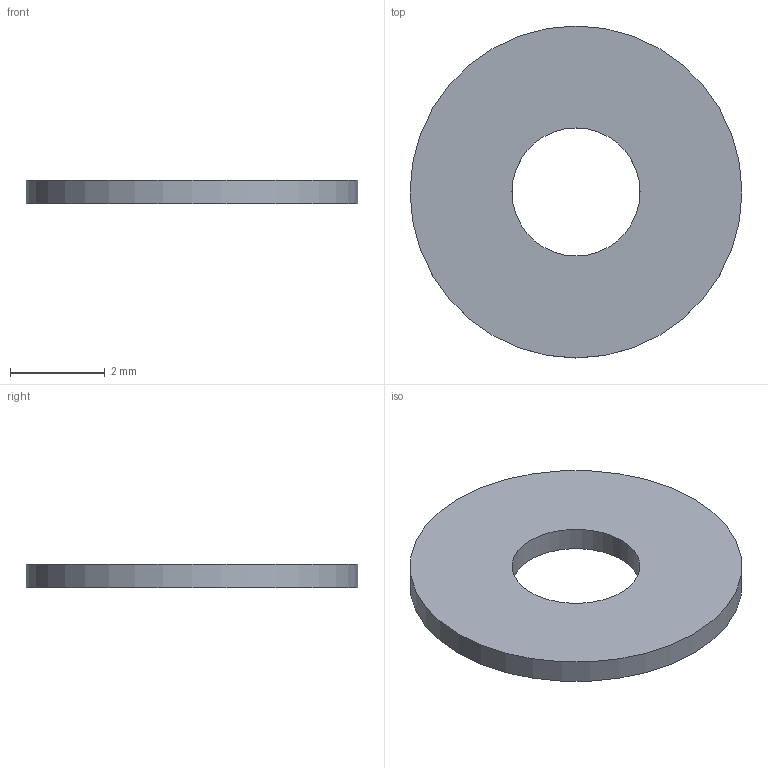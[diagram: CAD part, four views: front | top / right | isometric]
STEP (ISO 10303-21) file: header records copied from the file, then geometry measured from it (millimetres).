
FILE_DESCRIPTION(('Open CASCADE Model'),'2;1');
FILE_NAME('Open CASCADE Shape Model','2026-09-24T17:43:03',('Author'),( 'Open CASCADE'),'Open CASCADE STEP processor 7.8','Open CASCADE 7.8' ,'Unknown');
FILE_SCHEMA(('AUTOMOTIVE_DESIGN { 1 0 10303 214 1 1 1 1 }'));
Length unit declared in the file: millimetre
Products named in the file (1): Open CASCADE STEP translator 7.8 52
Bounding box: 7 x 7 x 0.5 mm (x, y, z)
Volume: 16.4 mm3; surface area: 80.8 mm2
Topology: 1 solids, 1 shells, 4 faces, 6 edges, 4 vertices
Faces by surface type: cylinder 2, plane 2
Full cylindrical faces by diameter (mm): 2.7 x1, 7 x1
Entity records: 186 total; most frequent: DIRECTION 32, CARTESIAN_POINT 27, ORIENTED_EDGE 12, PCURVE 12, DEFINITIONAL_REPRESENTATION 12, LINE 10, VECTOR 10, AXIS2_PLACEMENT_3D 9
